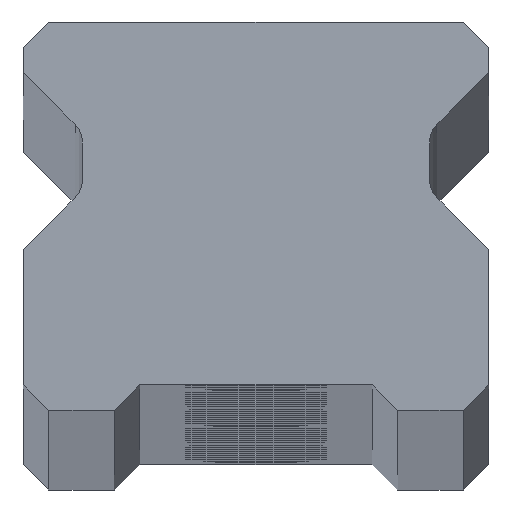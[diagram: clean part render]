
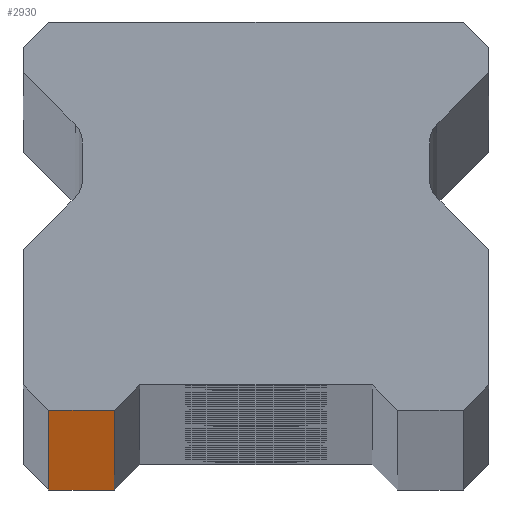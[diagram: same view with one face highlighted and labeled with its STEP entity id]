
A CAD part, top view. The second image highlights one B-rep face of the part: STEP entity #2930.
In plain terms, the highlighted planar face has unit normal (0, -1, 0).
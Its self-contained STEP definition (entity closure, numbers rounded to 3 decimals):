
#7 = AXIS2_PLACEMENT_3D ( 'NONE', #3058, #4078, #2518 ) ;
#328 = EDGE_CURVE ( 'NONE', #4855, #2098, #4202, .T. ) ;
#527 = CARTESIAN_POINT ( 'NONE',  ( -7., 0., 1130. ) ) ;
#648 = CARTESIAN_POINT ( 'NONE',  ( 11.5, 0., -1130. ) ) ;
#778 = ORIENTED_EDGE ( 'NONE', *, *, #328, .T. ) ;
#831 = LINE ( 'NONE', #648, #1746 ) ;
#1015 = VECTOR ( 'NONE', #6702, 1000. ) ;
#1109 = DIRECTION ( 'NONE',  ( 1., 0., 0. ) ) ;
#1527 = CARTESIAN_POINT ( 'NONE',  ( 11.5, 0., 1130. ) ) ;
#1566 = EDGE_CURVE ( 'NONE', #2098, #3401, #831, .T. ) ;
#1746 = VECTOR ( 'NONE', #1109, 1000. ) ;
#1891 = VECTOR ( 'NONE', #6538, 1000. ) ;
#2098 = VERTEX_POINT ( 'NONE', #6081 ) ;
#2517 = EDGE_CURVE ( 'NONE', #3401, #6618, #4632, .T. ) ;
#2518 = DIRECTION ( 'NONE',  ( -1., 0., 0. ) ) ;
#2813 = VECTOR ( 'NONE', #3214, 1000. ) ;
#2930 = ADVANCED_FACE ( 'NONE', ( #5676 ), #3561, .F. ) ;
#3040 = CARTESIAN_POINT ( 'NONE',  ( -7., 0., -1130. ) ) ;
#3058 = CARTESIAN_POINT ( 'NONE',  ( 11.5, 0., 1130. ) ) ;
#3197 = ORIENTED_EDGE ( 'NONE', *, *, #2517, .T. ) ;
#3214 = DIRECTION ( 'NONE',  ( 0., 0., -1. ) ) ;
#3401 = VERTEX_POINT ( 'NONE', #3040 ) ;
#3561 = PLANE ( 'NONE',  #7 ) ;
#3976 = CARTESIAN_POINT ( 'NONE',  ( -10.25, 0., 1130. ) ) ;
#4063 = EDGE_CURVE ( 'NONE', #4855, #6618, #5068, .T. ) ;
#4078 = DIRECTION ( 'NONE',  ( 0., 1., 0. ) ) ;
#4202 = LINE ( 'NONE', #4873, #2813 ) ;
#4217 = ORIENTED_EDGE ( 'NONE', *, *, #1566, .T. ) ;
#4632 = LINE ( 'NONE', #6613, #1891 ) ;
#4744 = ORIENTED_EDGE ( 'NONE', *, *, #4063, .F. ) ;
#4855 = VERTEX_POINT ( 'NONE', #3976 ) ;
#4873 = CARTESIAN_POINT ( 'NONE',  ( -10.25, 0., 1130. ) ) ;
#5068 = LINE ( 'NONE', #1527, #1015 ) ;
#5676 = FACE_OUTER_BOUND ( 'NONE', #6698, .T. ) ;
#6081 = CARTESIAN_POINT ( 'NONE',  ( -10.25, 0., -1130. ) ) ;
#6538 = DIRECTION ( 'NONE',  ( 0., 0., 1. ) ) ;
#6613 = CARTESIAN_POINT ( 'NONE',  ( -7., 0., -1130. ) ) ;
#6618 = VERTEX_POINT ( 'NONE', #527 ) ;
#6698 = EDGE_LOOP ( 'NONE', ( #4217, #3197, #4744, #778 ) ) ;
#6702 = DIRECTION ( 'NONE',  ( 1., 0., 0. ) ) ;
